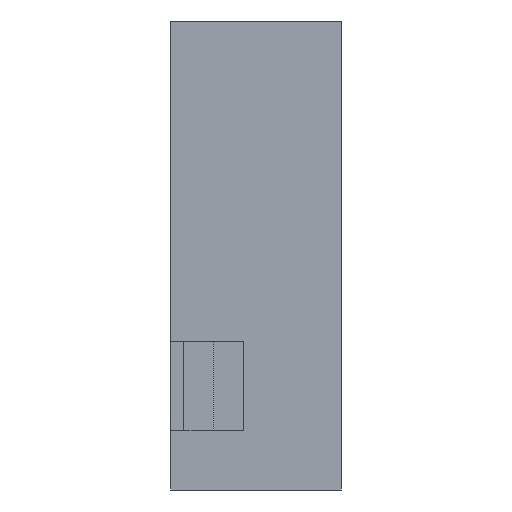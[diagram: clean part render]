
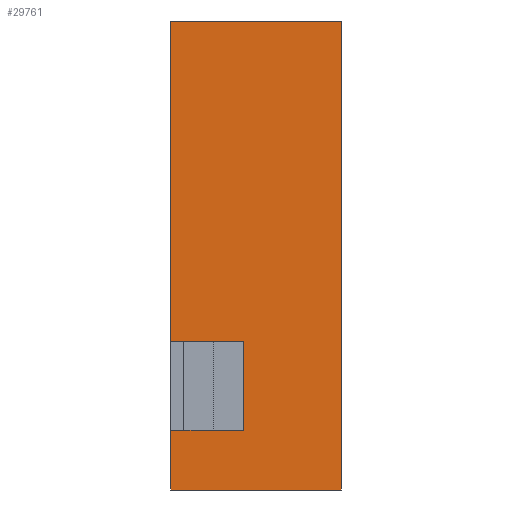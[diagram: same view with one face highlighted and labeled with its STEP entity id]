
A CAD part, front view. The second image highlights one B-rep face of the part: STEP entity #29761.
In plain terms, the highlighted planar face has unit normal (0, -1, 0).
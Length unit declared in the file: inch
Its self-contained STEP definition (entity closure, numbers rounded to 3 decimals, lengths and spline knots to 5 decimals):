
#2109=LINE('',#46074,#5776);
#2268=LINE('',#46430,#5935);
#2272=LINE('',#46439,#5939);
#2278=LINE('',#46449,#5945);
#2279=LINE('',#46451,#5946);
#2280=LINE('',#46452,#5947);
#2281=LINE('',#46454,#5948);
#2282=LINE('',#46455,#5949);
#5776=VECTOR('',#33529,0.55);
#5935=VECTOR('',#33760,0.085);
#5939=VECTOR('',#33766,0.085);
#5945=VECTOR('',#33776,0.105);
#5946=VECTOR('',#33777,0.07);
#5947=VECTOR('',#33778,0.2);
#5948=VECTOR('',#33779,0.2);
#5949=VECTOR('',#33780,0.375);
#9266=FACE_OUTER_BOUND('',#10916,.T.);
#10916=EDGE_LOOP('',(#22839,#22840,#22841,#22842,#22843,#22844,#22845,#22846));
#13129=VERTEX_POINT('',#46071);
#13130=VERTEX_POINT('',#46073);
#13273=VERTEX_POINT('',#46424);
#13275=VERTEX_POINT('',#46428);
#13278=VERTEX_POINT('',#46436);
#13279=VERTEX_POINT('',#46438);
#13282=VERTEX_POINT('',#46450);
#13283=VERTEX_POINT('',#46453);
#16523=EDGE_CURVE('',#13129,#13130,#2109,.T.);
#16684=EDGE_CURVE('',#13273,#13275,#2268,.T.);
#16688=EDGE_CURVE('',#13279,#13278,#2272,.T.);
#16694=EDGE_CURVE('',#13278,#13273,#2278,.T.);
#16695=EDGE_CURVE('',#13275,#13282,#2279,.T.);
#16696=EDGE_CURVE('',#13282,#13130,#2280,.T.);
#16697=EDGE_CURVE('',#13283,#13129,#2281,.T.);
#16698=EDGE_CURVE('',#13283,#13279,#2282,.T.);
#22839=ORIENTED_EDGE('',*,*,#16688,.T.);
#22840=ORIENTED_EDGE('',*,*,#16694,.T.);
#22841=ORIENTED_EDGE('',*,*,#16684,.T.);
#22842=ORIENTED_EDGE('',*,*,#16695,.T.);
#22843=ORIENTED_EDGE('',*,*,#16696,.T.);
#22844=ORIENTED_EDGE('',*,*,#16523,.F.);
#22845=ORIENTED_EDGE('',*,*,#16697,.F.);
#22846=ORIENTED_EDGE('',*,*,#16698,.T.);
#28192=PLANE('',#31000);
#29761=ADVANCED_FACE('',(#9266),#28192,.T.);
#31000=AXIS2_PLACEMENT_3D('',#46448,#33774,#33775);
#33529=DIRECTION('',(0.,0.,-1.));
#33760=DIRECTION('',(-1.,0.,0.));
#33766=DIRECTION('',(1.,0.,0.));
#33774=DIRECTION('center_axis',(0.,-1.,0.));
#33775=DIRECTION('ref_axis',(0.,0.,-1.));
#33776=DIRECTION('',(0.,0.,-1.));
#33777=DIRECTION('',(0.,0.,-1.));
#33778=DIRECTION('',(1.,0.,0.));
#33779=DIRECTION('',(1.,0.,0.));
#33780=DIRECTION('',(0.,0.,-1.));
#46071=CARTESIAN_POINT('',(0.2,0.,0.));
#46073=CARTESIAN_POINT('',(0.2,0.,-0.55));
#46074=CARTESIAN_POINT('',(0.2,0.,0.));
#46424=CARTESIAN_POINT('',(0.085,0.,-0.48));
#46428=CARTESIAN_POINT('',(0.,0.,-0.48));
#46430=CARTESIAN_POINT('',(0.,0.,-0.48));
#46436=CARTESIAN_POINT('',(0.085,0.,-0.375));
#46438=CARTESIAN_POINT('',(0.,0.,-0.375));
#46439=CARTESIAN_POINT('',(0.,0.,-0.375));
#46448=CARTESIAN_POINT('Origin',(0.,0.,0.));
#46449=CARTESIAN_POINT('',(0.085,0.,-0.22375));
#46450=CARTESIAN_POINT('',(0.,0.,-0.55));
#46451=CARTESIAN_POINT('',(0.,0.,0.));
#46452=CARTESIAN_POINT('',(0.,0.,-0.55));
#46453=CARTESIAN_POINT('',(0.,0.,0.));
#46454=CARTESIAN_POINT('',(0.,0.,0.));
#46455=CARTESIAN_POINT('',(0.,0.,0.));
